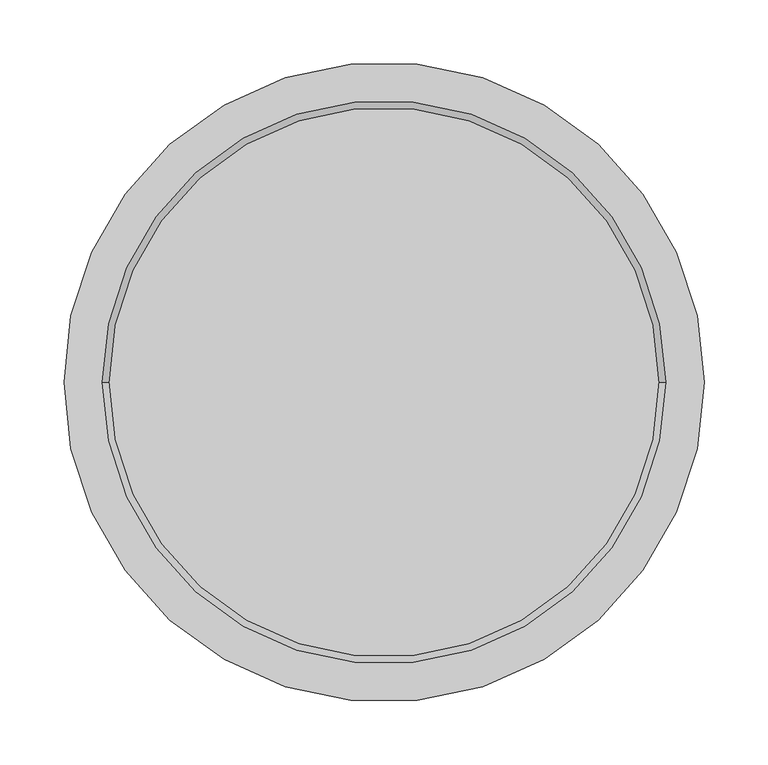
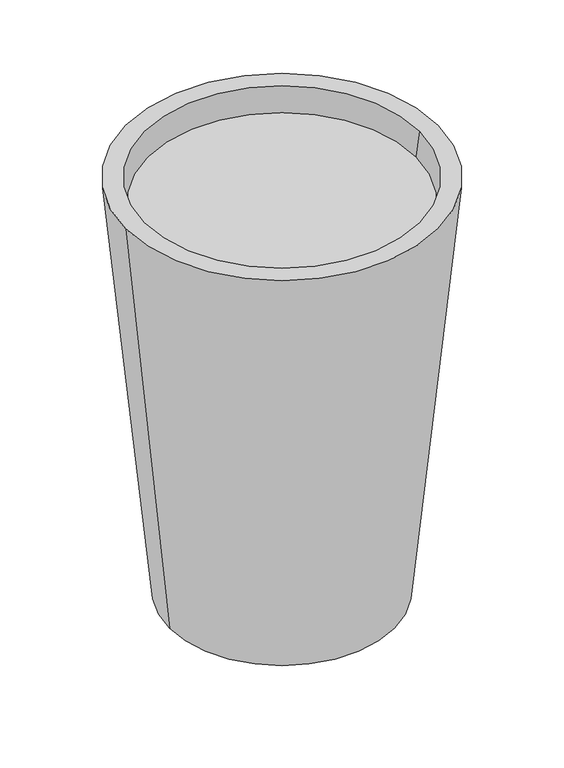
"""IFC4 building model written with IfcOpenShell, lengths in millimetres: flow terminal geometry, Brunnen : Brunnen."""

from ifc_helpers import new_model, si_unit, frame, origin, place, context, project, spatial, polyline, circle_curve, source, transform, mapped, element, save
from ifc_brep_helpers import plane_surface, revolved_surface, advanced_brep


def flow_terminal_26ed87ea(model_context):
    return source(origin(), model_context, "Body", "AdvancedBrep", [
        advanced_brep(
        [(-220.0, 0.0, 658.2324572), (220.0, 0.0, 658.2324572), (-130.0, 0.0, 50.0), (130.0, 0.0, 50.0)],
        [
            (0, 1, circle_curve(frame((0.0, 0.0, 658.2324572), z_axis=(0.0, 0.0, 1.0), x_axis=(1.0, 0.0, 0.0)), 220.0)),
            (1, 0, circle_curve(frame((0.0, 0.0, 658.2324572), z_axis=(0.0, 0.0, 1.0), x_axis=(-1.0, 0.0, 0.0)), 220.0)),
            (2, 3, circle_curve(frame((0.0, 0.0, 50.0), z_axis=(0.0, 0.0, -1.0), x_axis=(-1.0, 0.0, 0.0)), 130.0)),
            (3, 2, circle_curve(frame((0.0, 0.0, 50.0), z_axis=(0.0, 0.0, -1.0), x_axis=(1.0, 0.0, 0.0)), 130.0)),
            (2, 0),
            (1, 3),
        ],
        [
            plane_surface(frame((0.0, 0.0, 658.2324572), z_axis=(0.0, 0.0, 1.0), x_axis=(0.0, 1.0, 0.0))),
            plane_surface(frame((0.0, 0.0, 50.0), z_axis=(0.0, 0.0, -1.0), x_axis=(0.0, 1.0, 0.0))),
            revolved_surface(polyline([(-129.99999999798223, 0.0, 50.000000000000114), (-220.0, 0.0, 658.2324572)]), (0.0, 0.0, -828.5579937), (0.0, 0.0, 1.0)),
            revolved_surface(polyline([(129.99999999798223, 0.0, 50.000000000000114), (220.0, 0.0, 658.2324572)]), (0.0, 0.0, -828.5579937), (0.0, 0.0, 1.0)),
        ],
        [
            (0, [[1, 2]]),
            (1, [[3, 4]]),
            (2, [[5, -2, 6, -3]]),
            (3, [[-6, -1, -5, -4]]),
        ],
    ),
        advanced_brep(
        [(-250.0, 0.0, 700.0), (250.0, 0.0, 700.0), (220.0, 0.0, 700.0), (-220.0, 0.0, 700.0), (-180.0, 0.0, 0.0), (180.0, 0.0, 0.0), (-130.0, 0.0, 50.0), (130.0, 0.0, 50.0)],
        [
            (0, 1, circle_curve(frame((0.0, 0.0, 700.0), z_axis=(0.0, 0.0, 1.0), x_axis=(1.0, 0.0, 0.0)), 250.0)),
            (1, 0, circle_curve(frame((0.0, 0.0, 700.0), z_axis=(0.0, 0.0, 1.0), x_axis=(-1.0, 0.0, 0.0)), 250.0)),
            (2, 3, circle_curve(frame((0.0, 0.0, 700.0), z_axis=(0.0, 0.0, -1.0), x_axis=(1.0, 0.0, 0.0)), 220.0)),
            (3, 2, circle_curve(frame((0.0, 0.0, 700.0), z_axis=(0.0, 0.0, -1.0), x_axis=(-1.0, 0.0, 0.0)), 220.0)),
            (4, 5, circle_curve(frame((0.0, 0.0, 0.0), z_axis=(0.0, 0.0, -1.0), x_axis=(-1.0, 0.0, 0.0)), 180.0)),
            (5, 4, circle_curve(frame((0.0, 0.0, 0.0), z_axis=(0.0, 0.0, -1.0), x_axis=(1.0, 0.0, 0.0)), 180.0)),
            (1, 5),
            (4, 0),
            (6, 7, circle_curve(frame((0.0, 0.0, 50.0), z_axis=(0.0, 0.0, 1.0), x_axis=(1.0, 0.0, 0.0)), 130.0)),
            (7, 6, circle_curve(frame((0.0, 0.0, 50.0), z_axis=(0.0, 0.0, 1.0), x_axis=(-1.0, 0.0, 0.0)), 130.0)),
            (7, 2),
            (3, 6),
        ],
        [
            plane_surface(frame((0.0, 0.0, 700.0), z_axis=(0.0, 0.0, 1.0), x_axis=(0.0, 1.0, 0.0))),
            plane_surface(frame((0.0, 0.0, 0.0), z_axis=(0.0, 0.0, -1.0), x_axis=(0.0, 1.0, 0.0))),
            revolved_surface(polyline([(180.0, 0.0, 0.0), (250.0, 0.0, 700.0)]), (0.0, 0.0, -1800.0), (0.0, 0.0, 1.0)),
            revolved_surface(polyline([(-180.0, 0.0, 0.0), (-250.0, 0.0, 700.0)]), (0.0, 0.0, -1800.0), (0.0, 0.0, 1.0)),
            plane_surface(frame((0.0, 0.0, 50.0), z_axis=(0.0, 0.0, 1.0), x_axis=(0.0, 1.0, 0.0))),
            revolved_surface(polyline([(220.0, 0.0, 700.0), (130.00000000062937, 0.0, 50.0)]), (0.0, 0.0, -888.8888889), (0.0, 0.0, 1.0)),
            revolved_surface(polyline([(-220.0, 0.0, 700.0), (-130.00000000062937, 0.0, 50.0)]), (0.0, 0.0, -888.8888889), (0.0, 0.0, 1.0)),
        ],
        [
            (0, [[1, 2], [3, 4]]),
            (1, [[5, 6]]),
            (2, [[7, -5, 8, -2]]),
            (3, [[-8, -6, -7, -1]]),
            (4, [[9, 10]]),
            (5, [[11, -4, 12, -10]]),
            (6, [[-12, -3, -11, -9]]),
        ],
    ),
    ])


if __name__ == "__main__":
    model = new_model("IFC4")
    model_context = context("Model", 3, world=origin())
    ifc_project = project(units=[si_unit("LENGTHUNIT", "METRE", prefix="MILLI")], contexts=[model_context])
    site = spatial("IfcSite", under=ifc_project)
    building = spatial("IfcBuilding", under=site)
    placement = place(None, origin())
    flow_terminal_shape = flow_terminal_26ed87ea(model_context)
    element("IfcFlowTerminal", 1, ObjectType="Brunnen : Brunnen", at=placement, inside=building, context=model_context, shape_type="MappedRepresentation", body=[
        mapped(flow_terminal_shape, transform((0.0, 0.0, 0.0), x_axis=(1.0, 0.0, 0.0), y_axis=(0.0, 1.0, 0.0), z_axis=(0.0, 0.0, 1.0))),
    ])
    save(model, "model.ifc")
